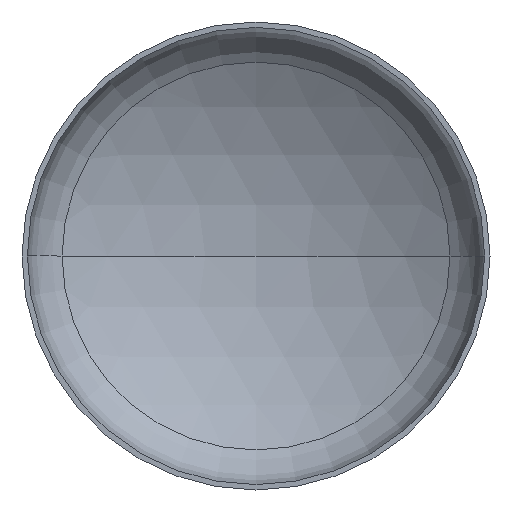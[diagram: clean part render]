
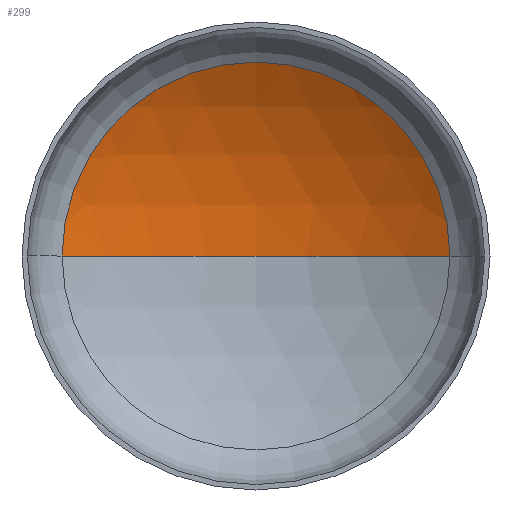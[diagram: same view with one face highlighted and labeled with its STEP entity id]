
A CAD part, front view. The second image highlights one B-rep face of the part: STEP entity #299.
In plain terms, the highlighted spherical face has radius 6400 mm.
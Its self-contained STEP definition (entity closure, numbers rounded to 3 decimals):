
#17 = CARTESIAN_POINT ( 'NONE',  ( 3315.126, 1152.127, 0. ) ) ;
#25 = CARTESIAN_POINT ( 'NONE',  ( 0., 2077.646, 0. ) ) ;
#29 = AXIS2_PLACEMENT_3D ( 'NONE', #380, #54, #391 ) ;
#30 = DIRECTION ( 'NONE',  ( 0., 0., 1. ) ) ;
#39 = CIRCLE ( 'NONE', #56, 6400. ) ;
#54 = DIRECTION ( 'NONE',  ( 0., 0., -1. ) ) ;
#56 = AXIS2_PLACEMENT_3D ( 'NONE', #360, #30, #352 ) ;
#58 = AXIS2_PLACEMENT_3D ( 'NONE', #183, #184, #158 ) ;
#63 = AXIS2_PLACEMENT_3D ( 'NONE', #278, #276, #198 ) ;
#67 = ORIENTED_EDGE ( 'NONE', *, *, #130, .F. ) ;
#125 = EDGE_CURVE ( 'NONE', #241, #406, #250, .T. ) ;
#128 = EDGE_CURVE ( 'NONE', #228, #241, #170, .T. ) ;
#130 = EDGE_CURVE ( 'NONE', #228, #406, #39, .T. ) ;
#158 = DIRECTION ( 'NONE',  ( -1., 0., 0. ) ) ;
#170 = CIRCLE ( 'NONE', #58, 6400. ) ;
#183 = CARTESIAN_POINT ( 'NONE',  ( 0., -4322.354, 0. ) ) ;
#184 = DIRECTION ( 'NONE',  ( 0., 0., -1. ) ) ;
#198 = DIRECTION ( 'NONE',  ( 1., 0., 0. ) ) ;
#201 = EDGE_LOOP ( 'NONE', ( #67, #280, #216 ) ) ;
#216 = ORIENTED_EDGE ( 'NONE', *, *, #125, .T. ) ;
#228 = VERTEX_POINT ( 'NONE', #25 ) ;
#241 = VERTEX_POINT ( 'NONE', #17 ) ;
#250 = CIRCLE ( 'NONE', #63, 3315.126 ) ;
#276 = DIRECTION ( 'NONE',  ( 0., -1., 0. ) ) ;
#278 = CARTESIAN_POINT ( 'NONE',  ( 0., 1152.127, 0. ) ) ;
#280 = ORIENTED_EDGE ( 'NONE', *, *, #128, .T. ) ;
#285 = SPHERICAL_SURFACE ( 'NONE', #29, 6400. ) ;
#299 = ADVANCED_FACE ( 'NONE', ( #357 ), #285, .F. ) ;
#352 = DIRECTION ( 'NONE',  ( 1., 0., 0. ) ) ;
#357 = FACE_OUTER_BOUND ( 'NONE', #201, .T. ) ;
#360 = CARTESIAN_POINT ( 'NONE',  ( 0., -4322.354, 0. ) ) ;
#380 = CARTESIAN_POINT ( 'NONE',  ( 0., -4322.354, 0. ) ) ;
#386 = CARTESIAN_POINT ( 'NONE',  ( -3315.126, 1152.127, 0. ) ) ;
#391 = DIRECTION ( 'NONE',  ( -1., 0., 0. ) ) ;
#406 = VERTEX_POINT ( 'NONE', #386 ) ;
